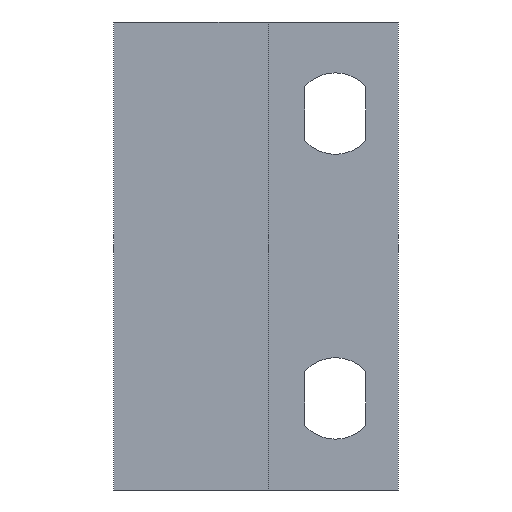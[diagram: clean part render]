
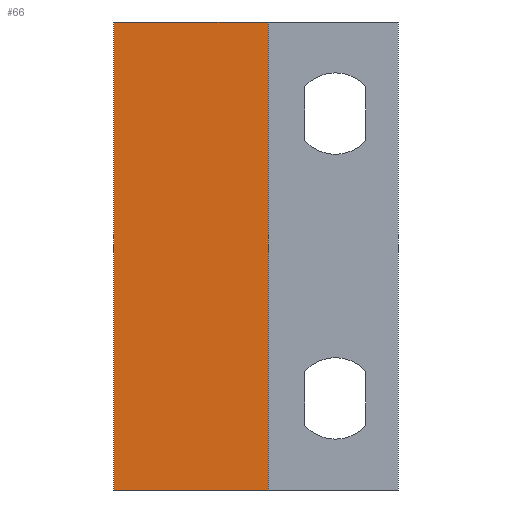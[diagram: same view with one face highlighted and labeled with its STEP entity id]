
A CAD part, left-side view. The second image highlights one B-rep face of the part: STEP entity #66.
In plain terms, the highlighted planar face has unit normal (-1, 0, 0).
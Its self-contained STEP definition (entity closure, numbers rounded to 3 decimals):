
#66=ADVANCED_FACE('',(#98),#1158,.T.);
#98=FACE_OUTER_BOUND('',#138,.T.);
#138=EDGE_LOOP('',(#279,#280,#281,#282));
#279=ORIENTED_EDGE('',*,*,#850,.F.);
#280=ORIENTED_EDGE('',*,*,#836,.F.);
#281=ORIENTED_EDGE('',*,*,#837,.F.);
#282=ORIENTED_EDGE('',*,*,#829,.F.);
#451=PCURVE('',#1151,#619);
#458=PCURVE('',#1152,#626);
#459=PCURVE('',#1153,#627);
#482=PCURVE('',#1156,#650);
#495=PCURVE('',#1158,#663);
#496=PCURVE('',#1158,#664);
#497=PCURVE('',#1158,#665);
#498=PCURVE('',#1158,#666);
#619=DEFINITIONAL_REPRESENTATION('',(#978),#2126);
#626=DEFINITIONAL_REPRESENTATION('',(#992),#2126);
#627=DEFINITIONAL_REPRESENTATION('',(#994),#2126);
#650=DEFINITIONAL_REPRESENTATION('',(#1022),#2126);
#663=DEFINITIONAL_REPRESENTATION('',(#1035),#2126);
#664=DEFINITIONAL_REPRESENTATION('',(#1036),#2126);
#665=DEFINITIONAL_REPRESENTATION('',(#1037),#2126);
#666=DEFINITIONAL_REPRESENTATION('',(#1038),#2126);
#745=SURFACE_CURVE('',#977,(#451,#498),.PCURVE_S1.);
#752=SURFACE_CURVE('',#991,(#458,#496),.PCURVE_S1.);
#753=SURFACE_CURVE('',#993,(#459,#497),.PCURVE_S1.);
#766=SURFACE_CURVE('',#1021,(#482,#495),.PCURVE_S1.);
#829=EDGE_CURVE('',#1101,#1100,#745,.T.);
#836=EDGE_CURVE('',#1110,#1105,#752,.T.);
#837=EDGE_CURVE('',#1100,#1110,#753,.T.);
#850=EDGE_CURVE('',#1105,#1101,#766,.T.);
#977=B_SPLINE_CURVE_WITH_KNOTS('',1,(#1787,#1788),.UNSPECIFIED.,.F.,.F.,
(2,2),(46.4,54.),.UNSPECIFIED.);
#978=B_SPLINE_CURVE_WITH_KNOTS('',1,(#1789,#1790),.UNSPECIFIED.,.F.,.F.,
(2,2),(46.4,54.),.UNSPECIFIED.);
#991=B_SPLINE_CURVE_WITH_KNOTS('',1,(#1815,#1816),.UNSPECIFIED.,.F.,.F.,
(2,2),(-14.,-6.4),.UNSPECIFIED.);
#992=B_SPLINE_CURVE_WITH_KNOTS('',1,(#1817,#1818),.UNSPECIFIED.,.F.,.F.,
(2,2),(-14.,-6.4),.UNSPECIFIED.);
#993=B_SPLINE_CURVE_WITH_KNOTS('',1,(#1819,#1820),.UNSPECIFIED.,.F.,.F.,
(2,2),(0.,23.),.UNSPECIFIED.);
#994=B_SPLINE_CURVE_WITH_KNOTS('',1,(#1821,#1822),.UNSPECIFIED.,.F.,.F.,
(2,2),(0.,23.),.UNSPECIFIED.);
#1021=B_SPLINE_CURVE_WITH_KNOTS('',1,(#1929,#1930),.UNSPECIFIED.,.F.,.F.,
(2,2),(-23.,0.),.UNSPECIFIED.);
#1022=B_SPLINE_CURVE_WITH_KNOTS('',1,(#1931,#1932),.UNSPECIFIED.,.F.,.F.,
(2,2),(-23.,0.),.UNSPECIFIED.);
#1035=B_SPLINE_CURVE_WITH_KNOTS('',1,(#2037,#2038),.UNSPECIFIED.,.F.,.F.,
(2,2),(-23.,0.),.UNSPECIFIED.);
#1036=B_SPLINE_CURVE_WITH_KNOTS('',1,(#2039,#2040),.UNSPECIFIED.,.F.,.F.,
(2,2),(-14.,-6.4),.UNSPECIFIED.);
#1037=B_SPLINE_CURVE_WITH_KNOTS('',1,(#2041,#2042),.UNSPECIFIED.,.F.,.F.,
(2,2),(0.,23.),.UNSPECIFIED.);
#1038=B_SPLINE_CURVE_WITH_KNOTS('',1,(#2043,#2044),.UNSPECIFIED.,.F.,.F.,
(2,2),(46.4,54.),.UNSPECIFIED.);
#1100=VERTEX_POINT('',#1744);
#1101=VERTEX_POINT('',#1745);
#1105=VERTEX_POINT('',#1749);
#1110=VERTEX_POINT('',#1754);
#1151=PLANE('',#1187);
#1152=PLANE('',#1188);
#1153=PLANE('',#1189);
#1156=PLANE('',#1192);
#1158=PLANE('',#1194);
#1187=AXIS2_PLACEMENT_3D('',#1671,#1206,$);
#1188=AXIS2_PLACEMENT_3D('',#1672,#1207,$);
#1189=AXIS2_PLACEMENT_3D('',#1673,#1208,$);
#1192=AXIS2_PLACEMENT_3D('',#1676,#1211,$);
#1194=AXIS2_PLACEMENT_3D('',#1678,#1213,$);
#1206=DIRECTION('',(0.,0.,-1.));
#1207=DIRECTION('',(0.,0.,1.));
#1208=DIRECTION('',(0.,1.,0.));
#1211=DIRECTION('',(0.,-1.,0.));
#1213=DIRECTION('',(-1.,0.,0.));
#1671=CARTESIAN_POINT('',(-496.06,16.76,-1.5));
#1672=CARTESIAN_POINT('',(-496.06,16.76,21.5));
#1673=CARTESIAN_POINT('',(-496.,30.9,-1.5));
#1676=CARTESIAN_POINT('',(-496.,23.3,-1.5));
#1678=CARTESIAN_POINT('',(-496.,16.9,-1.5));
#1744=CARTESIAN_POINT('',(-496.,30.9,-1.5));
#1745=CARTESIAN_POINT('',(-496.,23.3,-1.5));
#1749=CARTESIAN_POINT('',(-496.,23.3,21.5));
#1754=CARTESIAN_POINT('',(-496.,30.9,21.5));
#1787=CARTESIAN_POINT('',(-496.,23.3,-1.5));
#1788=CARTESIAN_POINT('',(-496.,30.9,-1.5));
#1789=CARTESIAN_POINT('',(-7.6,-6.));
#1790=CARTESIAN_POINT('',(0.,-6.));
#1815=CARTESIAN_POINT('',(-496.,30.9,21.5));
#1816=CARTESIAN_POINT('',(-496.,23.3,21.5));
#1817=CARTESIAN_POINT('',(0.,7.6));
#1818=CARTESIAN_POINT('',(0.,0.));
#1819=CARTESIAN_POINT('',(-496.,30.9,-1.5));
#1820=CARTESIAN_POINT('',(-496.,30.9,21.5));
#1821=CARTESIAN_POINT('',(0.,14.));
#1822=CARTESIAN_POINT('',(23.,14.));
#1929=CARTESIAN_POINT('',(-496.,23.3,21.5));
#1930=CARTESIAN_POINT('',(-496.,23.3,-1.5));
#1931=CARTESIAN_POINT('',(6.4,23.));
#1932=CARTESIAN_POINT('',(6.4,0.));
#2037=CARTESIAN_POINT('',(23.,6.4));
#2038=CARTESIAN_POINT('',(0.,6.4));
#2039=CARTESIAN_POINT('',(23.,14.));
#2040=CARTESIAN_POINT('',(23.,6.4));
#2041=CARTESIAN_POINT('',(0.,14.));
#2042=CARTESIAN_POINT('',(23.,14.));
#2043=CARTESIAN_POINT('',(0.,6.4));
#2044=CARTESIAN_POINT('',(0.,14.));
#2126=(
GEOMETRIC_REPRESENTATION_CONTEXT(2)
PARAMETRIC_REPRESENTATION_CONTEXT()
REPRESENTATION_CONTEXT('pspace','')
);
